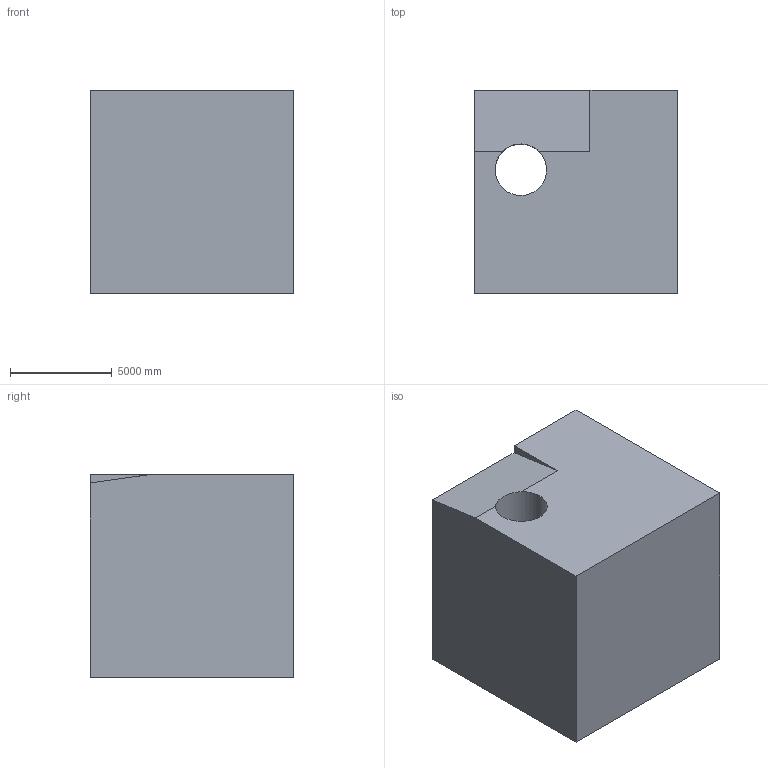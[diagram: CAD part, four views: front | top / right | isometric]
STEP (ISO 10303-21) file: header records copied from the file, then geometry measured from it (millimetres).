
FILE_DESCRIPTION (( 'STEP AP203' ), '1' );
FILE_NAME ('128.STEP', '2022-09-06T13:20:26', ( 'user' ), ( '' ), 'SwSTEP 2.0', 'SolidWorks 2021', '' );
FILE_SCHEMA (( 'CONFIG_CONTROL_DESIGN' ));
Length unit declared in the file: centimetre
Products named in the file (1): 128
Bounding box: 10000 x 10000 x 10000 mm (x, y, z)
Volume: 910705687334.1 mm3; surface area: 713718908.1 mm2
Topology: 1 solids, 1 shells, 13 faces, 33 edges, 22 vertices
Faces by surface type: plane 9, cylinder 4
Entity records: 477 total; most frequent: CARTESIAN_POINT 72, DIRECTION 69, ORIENTED_EDGE 66, EDGE_CURVE 33, VECTOR 23, AXIS2_PLACEMENT_3D 23, LINE 23, VERTEX_POINT 22
